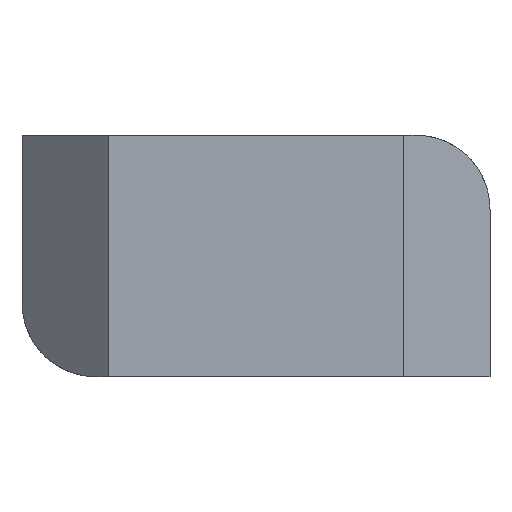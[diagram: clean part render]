
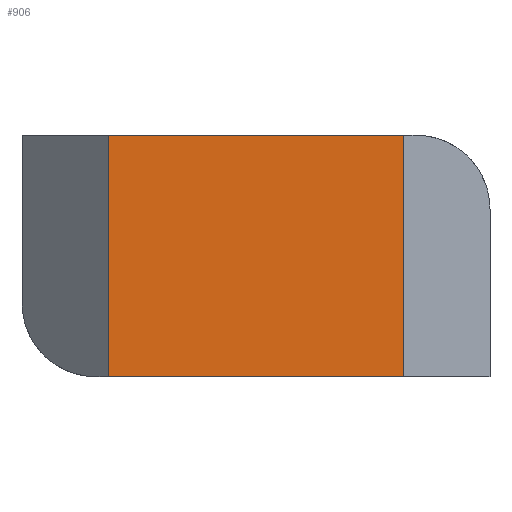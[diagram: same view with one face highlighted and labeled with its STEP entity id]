
A CAD part, front view. The second image highlights one B-rep face of the part: STEP entity #906.
In plain terms, the highlighted planar face has unit normal (0, -1, 0).
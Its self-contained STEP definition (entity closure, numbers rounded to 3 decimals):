
#116 = LINE ( 'NONE', #2232, #2030 ) ;
#148 = FACE_OUTER_BOUND ( 'NONE', #1734, .T. ) ;
#242 = PLANE ( 'NONE',  #870 ) ;
#247 = ORIENTED_EDGE ( 'NONE', *, *, #1544, .F. ) ;
#272 = DIRECTION ( 'NONE',  ( 0., 0., 1. ) ) ;
#319 = VERTEX_POINT ( 'NONE', #1575 ) ;
#345 = CARTESIAN_POINT ( 'NONE',  ( -6., 0., -4.9 ) ) ;
#350 = DIRECTION ( 'NONE',  ( 0., 0., -1. ) ) ;
#374 = VERTEX_POINT ( 'NONE', #1806 ) ;
#425 = VECTOR ( 'NONE', #564, 1000. ) ;
#553 = EDGE_CURVE ( 'NONE', #841, #1926, #834, .T. ) ;
#564 = DIRECTION ( 'NONE',  ( 1., 0., 0. ) ) ;
#659 = ORIENTED_EDGE ( 'NONE', *, *, #2104, .F. ) ;
#666 = CARTESIAN_POINT ( 'NONE',  ( -6., 0., 4.9 ) ) ;
#709 = VECTOR ( 'NONE', #350, 1000. ) ;
#834 = LINE ( 'NONE', #345, #425 ) ;
#841 = VERTEX_POINT ( 'NONE', #1534 ) ;
#870 = AXIS2_PLACEMENT_3D ( 'NONE', #666, #2324, #272 ) ;
#906 = ADVANCED_FACE ( 'NONE', ( #148 ), #242, .F. ) ;
#983 = VECTOR ( 'NONE', #2314, 1000. ) ;
#1244 = LINE ( 'NONE', #2006, #709 ) ;
#1332 = EDGE_CURVE ( 'NONE', #374, #841, #1951, .T. ) ;
#1534 = CARTESIAN_POINT ( 'NONE',  ( -6., 0., -4.9 ) ) ;
#1544 = EDGE_CURVE ( 'NONE', #319, #1926, #1244, .T. ) ;
#1575 = CARTESIAN_POINT ( 'NONE',  ( 6., 0., 4.9 ) ) ;
#1731 = ORIENTED_EDGE ( 'NONE', *, *, #553, .T. ) ;
#1734 = EDGE_LOOP ( 'NONE', ( #1731, #247, #659, #2221 ) ) ;
#1806 = CARTESIAN_POINT ( 'NONE',  ( -6., 0., 4.9 ) ) ;
#1926 = VERTEX_POINT ( 'NONE', #2338 ) ;
#1951 = LINE ( 'NONE', #2288, #983 ) ;
#2006 = CARTESIAN_POINT ( 'NONE',  ( 6., 0., 4.9 ) ) ;
#2030 = VECTOR ( 'NONE', #2059, 1000. ) ;
#2059 = DIRECTION ( 'NONE',  ( 1., 0., 0. ) ) ;
#2104 = EDGE_CURVE ( 'NONE', #374, #319, #116, .T. ) ;
#2221 = ORIENTED_EDGE ( 'NONE', *, *, #1332, .T. ) ;
#2232 = CARTESIAN_POINT ( 'NONE',  ( -6., 0., 4.9 ) ) ;
#2288 = CARTESIAN_POINT ( 'NONE',  ( -6., 0., 4.9 ) ) ;
#2314 = DIRECTION ( 'NONE',  ( 0., 0., -1. ) ) ;
#2324 = DIRECTION ( 'NONE',  ( 0., 1., 0. ) ) ;
#2338 = CARTESIAN_POINT ( 'NONE',  ( 6., 0., -4.9 ) ) ;
